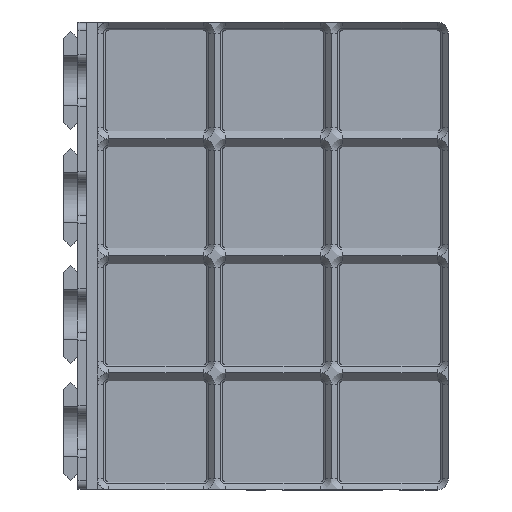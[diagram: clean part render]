
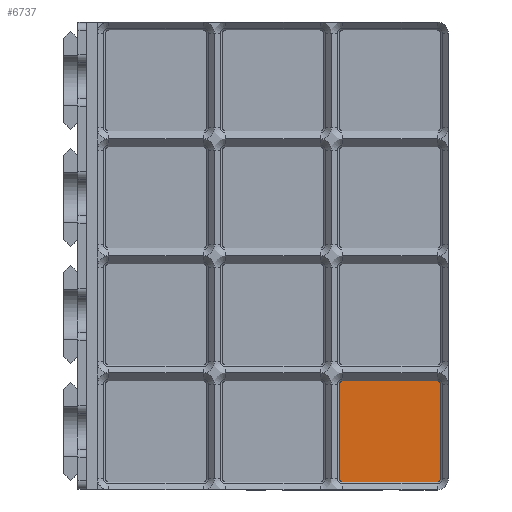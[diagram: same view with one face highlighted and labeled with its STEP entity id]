
A CAD part, top view. The second image highlights one B-rep face of the part: STEP entity #6737.
In plain terms, the highlighted planar face has unit normal (0, 0, 1).
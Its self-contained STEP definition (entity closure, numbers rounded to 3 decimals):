
#125=PLANE('',#7218);
#375=FACE_OUTER_BOUND('',#831,.T.);
#831=EDGE_LOOP('',(#4633,#4634,#4635,#4636,#4637,#4638,#4639,#4640));
#1302=LINE('',#10211,#2034);
#1303=LINE('',#10215,#2035);
#1304=LINE('',#10219,#2036);
#1305=LINE('',#10222,#2037);
#2034=VECTOR('',#8002,10.);
#2035=VECTOR('',#8005,10.);
#2036=VECTOR('',#8008,10.);
#2037=VECTOR('',#8011,10.);
#2755=CIRCLE('',#7219,1.154);
#2756=CIRCLE('',#7220,1.154);
#2757=CIRCLE('',#7221,1.154);
#2758=CIRCLE('',#7222,1.154);
#3047=VERTEX_POINT('',#10207);
#3048=VERTEX_POINT('',#10208);
#3049=VERTEX_POINT('',#10210);
#3050=VERTEX_POINT('',#10212);
#3051=VERTEX_POINT('',#10214);
#3052=VERTEX_POINT('',#10216);
#3053=VERTEX_POINT('',#10218);
#3054=VERTEX_POINT('',#10220);
#3614=EDGE_CURVE('',#3047,#3048,#2755,.F.);
#3615=EDGE_CURVE('',#3048,#3049,#1302,.F.);
#3616=EDGE_CURVE('',#3049,#3050,#2756,.F.);
#3617=EDGE_CURVE('',#3050,#3051,#1303,.F.);
#3618=EDGE_CURVE('',#3051,#3052,#2757,.F.);
#3619=EDGE_CURVE('',#3052,#3053,#1304,.F.);
#3620=EDGE_CURVE('',#3053,#3054,#2758,.F.);
#3621=EDGE_CURVE('',#3054,#3047,#1305,.F.);
#4633=ORIENTED_EDGE('',*,*,#3614,.T.);
#4634=ORIENTED_EDGE('',*,*,#3615,.T.);
#4635=ORIENTED_EDGE('',*,*,#3616,.T.);
#4636=ORIENTED_EDGE('',*,*,#3617,.T.);
#4637=ORIENTED_EDGE('',*,*,#3618,.T.);
#4638=ORIENTED_EDGE('',*,*,#3619,.T.);
#4639=ORIENTED_EDGE('',*,*,#3620,.T.);
#4640=ORIENTED_EDGE('',*,*,#3621,.T.);
#6737=ADVANCED_FACE('',(#375),#125,.F.);
#7218=AXIS2_PLACEMENT_3D('',#10206,#7998,#7999);
#7219=AXIS2_PLACEMENT_3D('',#10209,#8000,#8001);
#7220=AXIS2_PLACEMENT_3D('',#10213,#8003,#8004);
#7221=AXIS2_PLACEMENT_3D('',#10217,#8006,#8007);
#7222=AXIS2_PLACEMENT_3D('',#10221,#8009,#8010);
#7998=DIRECTION('center_axis',(0.,0.,-1.));
#7999=DIRECTION('ref_axis',(1.,0.,0.));
#8000=DIRECTION('center_axis',(0.,0.,-1.));
#8001=DIRECTION('ref_axis',(0.,-1.,0.));
#8002=DIRECTION('',(-1.,0.,0.));
#8003=DIRECTION('center_axis',(0.,0.,-1.));
#8004=DIRECTION('ref_axis',(1.,0.,0.));
#8005=DIRECTION('',(0.,-1.,0.));
#8006=DIRECTION('center_axis',(0.,0.,-1.));
#8007=DIRECTION('ref_axis',(0.,1.,0.));
#8008=DIRECTION('',(1.,0.,0.));
#8009=DIRECTION('center_axis',(0.,0.,-1.));
#8010=DIRECTION('ref_axis',(-1.,0.,0.));
#8011=DIRECTION('',(0.,1.,0.));
#10206=CARTESIAN_POINT('Origin',(204.65,63.,-112.124));
#10207=CARTESIAN_POINT('',(189.996,-17.,-112.124));
#10208=CARTESIAN_POINT('',(191.15,-18.154,-112.124));
#10209=CARTESIAN_POINT('Origin',(191.15,-17.,-112.124));
#10210=CARTESIAN_POINT('',(225.15,-18.154,-112.124));
#10211=CARTESIAN_POINT('',(216.65,-18.154,-112.124));
#10212=CARTESIAN_POINT('',(226.304,-17.,-112.124));
#10213=CARTESIAN_POINT('Origin',(225.15,-17.,-112.124));
#10214=CARTESIAN_POINT('',(226.304,17.,-112.124));
#10215=CARTESIAN_POINT('',(226.304,8.5,-112.124));
#10216=CARTESIAN_POINT('',(225.15,18.154,-112.124));
#10217=CARTESIAN_POINT('Origin',(225.15,17.,-112.124));
#10218=CARTESIAN_POINT('',(191.15,18.154,-112.124));
#10219=CARTESIAN_POINT('',(199.65,18.154,-112.124));
#10220=CARTESIAN_POINT('',(189.996,17.,-112.124));
#10221=CARTESIAN_POINT('Origin',(191.15,17.,-112.124));
#10222=CARTESIAN_POINT('',(189.996,0.,-112.124));
